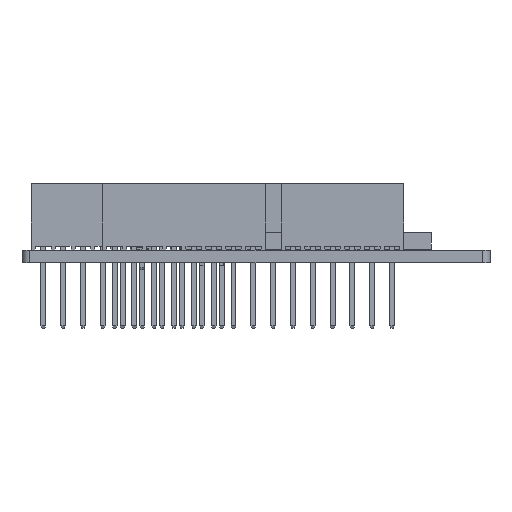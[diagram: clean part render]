
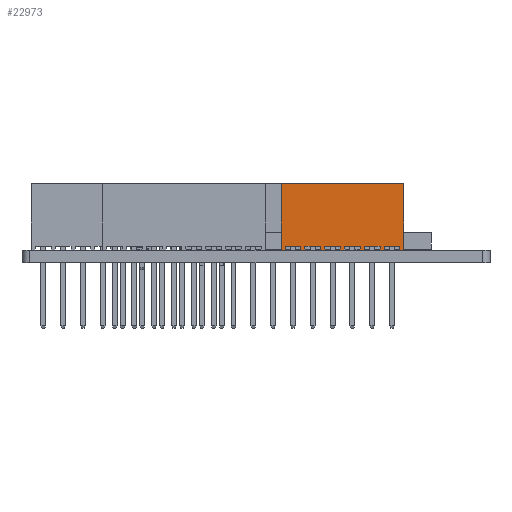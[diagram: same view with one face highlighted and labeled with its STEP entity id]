
A CAD part, front view. The second image highlights one B-rep face of the part: STEP entity #22973.
In plain terms, the highlighted planar face has unit normal (0, -1, 0) as drawn and (0, 0, -1) by its records, which use the part's own axes.
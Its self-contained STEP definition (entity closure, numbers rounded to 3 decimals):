
#22973 = ADVANCED_FACE('',(#22974),#23200,.F.);
#22974 = FACE_BOUND('',#22975,.T.);
#22975 = EDGE_LOOP('',(#22976,#22986,#22994,#23002,#23010,#23018,#23026,
    #23034,#23042,#23050,#23058,#23066,#23074,#23082,#23090,#23098,
    #23106,#23114,#23122,#23130,#23138,#23146,#23154,#23162,#23170,
    #23178,#23186,#23194));
#22976 = ORIENTED_EDGE('',*,*,#22977,.F.);
#22977 = EDGE_CURVE('',#22978,#22980,#22982,.T.);
#22978 = VERTEX_POINT('',#22979);
#22979 = CARTESIAN_POINT('',(7.366,0.508,-1.207));
#22980 = VERTEX_POINT('',#22981);
#22981 = CARTESIAN_POINT('',(7.366,0.,-1.207));
#22982 = LINE('',#22983,#22984);
#22983 = CARTESIAN_POINT('',(7.366,8.509,-1.207));
#22984 = VECTOR('',#22985,1.);
#22985 = DIRECTION('',(0.,-1.,-0.));
#22986 = ORIENTED_EDGE('',*,*,#22987,.F.);
#22987 = EDGE_CURVE('',#22988,#22978,#22990,.T.);
#22988 = VERTEX_POINT('',#22989);
#22989 = CARTESIAN_POINT('',(5.334,0.508,-1.207));
#22990 = LINE('',#22991,#22992);
#22991 = CARTESIAN_POINT('',(7.874,0.508,-1.207));
#22992 = VECTOR('',#22993,1.);
#22993 = DIRECTION('',(1.,0.,0.));
#22994 = ORIENTED_EDGE('',*,*,#22995,.F.);
#22995 = EDGE_CURVE('',#22996,#22988,#22998,.T.);
#22996 = VERTEX_POINT('',#22997);
#22997 = CARTESIAN_POINT('',(5.334,0.,-1.207));
#22998 = LINE('',#22999,#23000);
#22999 = CARTESIAN_POINT('',(5.334,8.509,-1.207));
#23000 = VECTOR('',#23001,1.);
#23001 = DIRECTION('',(0.,1.,0.));
#23002 = ORIENTED_EDGE('',*,*,#23003,.T.);
#23003 = EDGE_CURVE('',#22996,#23004,#23006,.T.);
#23004 = VERTEX_POINT('',#23005);
#23005 = CARTESIAN_POINT('',(4.826,0.,-1.207));
#23006 = LINE('',#23007,#23008);
#23007 = CARTESIAN_POINT('',(7.874,0.,-1.207));
#23008 = VECTOR('',#23009,1.);
#23009 = DIRECTION('',(-1.,0.,0.));
#23010 = ORIENTED_EDGE('',*,*,#23011,.F.);
#23011 = EDGE_CURVE('',#23012,#23004,#23014,.T.);
#23012 = VERTEX_POINT('',#23013);
#23013 = CARTESIAN_POINT('',(4.826,0.508,-1.207));
#23014 = LINE('',#23015,#23016);
#23015 = CARTESIAN_POINT('',(4.826,8.509,-1.207));
#23016 = VECTOR('',#23017,1.);
#23017 = DIRECTION('',(0.,-1.,0.));
#23018 = ORIENTED_EDGE('',*,*,#23019,.F.);
#23019 = EDGE_CURVE('',#23020,#23012,#23022,.T.);
#23020 = VERTEX_POINT('',#23021);
#23021 = CARTESIAN_POINT('',(2.794,0.508,-1.207));
#23022 = LINE('',#23023,#23024);
#23023 = CARTESIAN_POINT('',(7.874,0.508,-1.207));
#23024 = VECTOR('',#23025,1.);
#23025 = DIRECTION('',(1.,0.,0.));
#23026 = ORIENTED_EDGE('',*,*,#23027,.F.);
#23027 = EDGE_CURVE('',#23028,#23020,#23030,.T.);
#23028 = VERTEX_POINT('',#23029);
#23029 = CARTESIAN_POINT('',(2.794,0.,-1.207));
#23030 = LINE('',#23031,#23032);
#23031 = CARTESIAN_POINT('',(2.794,8.509,-1.207));
#23032 = VECTOR('',#23033,1.);
#23033 = DIRECTION('',(0.,1.,0.));
#23034 = ORIENTED_EDGE('',*,*,#23035,.T.);
#23035 = EDGE_CURVE('',#23028,#23036,#23038,.T.);
#23036 = VERTEX_POINT('',#23037);
#23037 = CARTESIAN_POINT('',(2.286,0.,-1.207));
#23038 = LINE('',#23039,#23040);
#23039 = CARTESIAN_POINT('',(7.874,0.,-1.207));
#23040 = VECTOR('',#23041,1.);
#23041 = DIRECTION('',(-1.,0.,0.));
#23042 = ORIENTED_EDGE('',*,*,#23043,.F.);
#23043 = EDGE_CURVE('',#23044,#23036,#23046,.T.);
#23044 = VERTEX_POINT('',#23045);
#23045 = CARTESIAN_POINT('',(2.286,0.508,-1.207));
#23046 = LINE('',#23047,#23048);
#23047 = CARTESIAN_POINT('',(2.286,8.509,-1.207));
#23048 = VECTOR('',#23049,1.);
#23049 = DIRECTION('',(0.,-1.,0.));
#23050 = ORIENTED_EDGE('',*,*,#23051,.F.);
#23051 = EDGE_CURVE('',#23052,#23044,#23054,.T.);
#23052 = VERTEX_POINT('',#23053);
#23053 = CARTESIAN_POINT('',(0.254,0.508,-1.207));
#23054 = LINE('',#23055,#23056);
#23055 = CARTESIAN_POINT('',(7.874,0.508,-1.207));
#23056 = VECTOR('',#23057,1.);
#23057 = DIRECTION('',(1.,0.,0.));
#23058 = ORIENTED_EDGE('',*,*,#23059,.F.);
#23059 = EDGE_CURVE('',#23060,#23052,#23062,.T.);
#23060 = VERTEX_POINT('',#23061);
#23061 = CARTESIAN_POINT('',(0.254,0.,-1.207));
#23062 = LINE('',#23063,#23064);
#23063 = CARTESIAN_POINT('',(0.254,8.509,-1.207));
#23064 = VECTOR('',#23065,1.);
#23065 = DIRECTION('',(0.,1.,0.));
#23066 = ORIENTED_EDGE('',*,*,#23067,.T.);
#23067 = EDGE_CURVE('',#23060,#23068,#23070,.T.);
#23068 = VERTEX_POINT('',#23069);
#23069 = CARTESIAN_POINT('',(-0.254,0.,-1.207));
#23070 = LINE('',#23071,#23072);
#23071 = CARTESIAN_POINT('',(7.874,0.,-1.207));
#23072 = VECTOR('',#23073,1.);
#23073 = DIRECTION('',(-1.,0.,0.));
#23074 = ORIENTED_EDGE('',*,*,#23075,.F.);
#23075 = EDGE_CURVE('',#23076,#23068,#23078,.T.);
#23076 = VERTEX_POINT('',#23077);
#23077 = CARTESIAN_POINT('',(-0.254,0.508,-1.207));
#23078 = LINE('',#23079,#23080);
#23079 = CARTESIAN_POINT('',(-0.254,8.509,-1.207));
#23080 = VECTOR('',#23081,1.);
#23081 = DIRECTION('',(0.,-1.,0.));
#23082 = ORIENTED_EDGE('',*,*,#23083,.F.);
#23083 = EDGE_CURVE('',#23084,#23076,#23086,.T.);
#23084 = VERTEX_POINT('',#23085);
#23085 = CARTESIAN_POINT('',(-2.286,0.508,-1.207));
#23086 = LINE('',#23087,#23088);
#23087 = CARTESIAN_POINT('',(7.874,0.508,-1.207));
#23088 = VECTOR('',#23089,1.);
#23089 = DIRECTION('',(1.,0.,0.));
#23090 = ORIENTED_EDGE('',*,*,#23091,.F.);
#23091 = EDGE_CURVE('',#23092,#23084,#23094,.T.);
#23092 = VERTEX_POINT('',#23093);
#23093 = CARTESIAN_POINT('',(-2.286,0.,-1.207));
#23094 = LINE('',#23095,#23096);
#23095 = CARTESIAN_POINT('',(-2.286,8.509,-1.207));
#23096 = VECTOR('',#23097,1.);
#23097 = DIRECTION('',(0.,1.,0.));
#23098 = ORIENTED_EDGE('',*,*,#23099,.T.);
#23099 = EDGE_CURVE('',#23092,#23100,#23102,.T.);
#23100 = VERTEX_POINT('',#23101);
#23101 = CARTESIAN_POINT('',(-2.794,0.,-1.207));
#23102 = LINE('',#23103,#23104);
#23103 = CARTESIAN_POINT('',(7.874,0.,-1.207));
#23104 = VECTOR('',#23105,1.);
#23105 = DIRECTION('',(-1.,0.,0.));
#23106 = ORIENTED_EDGE('',*,*,#23107,.F.);
#23107 = EDGE_CURVE('',#23108,#23100,#23110,.T.);
#23108 = VERTEX_POINT('',#23109);
#23109 = CARTESIAN_POINT('',(-2.794,0.508,-1.207));
#23110 = LINE('',#23111,#23112);
#23111 = CARTESIAN_POINT('',(-2.794,8.509,-1.207));
#23112 = VECTOR('',#23113,1.);
#23113 = DIRECTION('',(0.,-1.,0.));
#23114 = ORIENTED_EDGE('',*,*,#23115,.F.);
#23115 = EDGE_CURVE('',#23116,#23108,#23118,.T.);
#23116 = VERTEX_POINT('',#23117);
#23117 = CARTESIAN_POINT('',(-4.826,0.508,-1.207));
#23118 = LINE('',#23119,#23120);
#23119 = CARTESIAN_POINT('',(7.874,0.508,-1.207));
#23120 = VECTOR('',#23121,1.);
#23121 = DIRECTION('',(1.,0.,0.));
#23122 = ORIENTED_EDGE('',*,*,#23123,.F.);
#23123 = EDGE_CURVE('',#23124,#23116,#23126,.T.);
#23124 = VERTEX_POINT('',#23125);
#23125 = CARTESIAN_POINT('',(-4.826,0.,-1.207));
#23126 = LINE('',#23127,#23128);
#23127 = CARTESIAN_POINT('',(-4.826,8.509,-1.207));
#23128 = VECTOR('',#23129,1.);
#23129 = DIRECTION('',(0.,1.,0.));
#23130 = ORIENTED_EDGE('',*,*,#23131,.T.);
#23131 = EDGE_CURVE('',#23124,#23132,#23134,.T.);
#23132 = VERTEX_POINT('',#23133);
#23133 = CARTESIAN_POINT('',(-5.334,0.,-1.207));
#23134 = LINE('',#23135,#23136);
#23135 = CARTESIAN_POINT('',(7.874,0.,-1.207));
#23136 = VECTOR('',#23137,1.);
#23137 = DIRECTION('',(-1.,0.,0.));
#23138 = ORIENTED_EDGE('',*,*,#23139,.F.);
#23139 = EDGE_CURVE('',#23140,#23132,#23142,.T.);
#23140 = VERTEX_POINT('',#23141);
#23141 = CARTESIAN_POINT('',(-5.334,0.508,-1.207));
#23142 = LINE('',#23143,#23144);
#23143 = CARTESIAN_POINT('',(-5.334,8.509,-1.207));
#23144 = VECTOR('',#23145,1.);
#23145 = DIRECTION('',(0.,-1.,0.));
#23146 = ORIENTED_EDGE('',*,*,#23147,.F.);
#23147 = EDGE_CURVE('',#23148,#23140,#23150,.T.);
#23148 = VERTEX_POINT('',#23149);
#23149 = CARTESIAN_POINT('',(-7.366,0.508,-1.207));
#23150 = LINE('',#23151,#23152);
#23151 = CARTESIAN_POINT('',(7.874,0.508,-1.207));
#23152 = VECTOR('',#23153,1.);
#23153 = DIRECTION('',(1.,0.,0.));
#23154 = ORIENTED_EDGE('',*,*,#23155,.F.);
#23155 = EDGE_CURVE('',#23156,#23148,#23158,.T.);
#23156 = VERTEX_POINT('',#23157);
#23157 = CARTESIAN_POINT('',(-7.366,0.,-1.207));
#23158 = LINE('',#23159,#23160);
#23159 = CARTESIAN_POINT('',(-7.366,8.509,-1.207));
#23160 = VECTOR('',#23161,1.);
#23161 = DIRECTION('',(0.,1.,0.));
#23162 = ORIENTED_EDGE('',*,*,#23163,.T.);
#23163 = EDGE_CURVE('',#23156,#23164,#23166,.T.);
#23164 = VERTEX_POINT('',#23165);
#23165 = CARTESIAN_POINT('',(-7.874,0.,-1.207));
#23166 = LINE('',#23167,#23168);
#23167 = CARTESIAN_POINT('',(7.874,0.,-1.207));
#23168 = VECTOR('',#23169,1.);
#23169 = DIRECTION('',(-1.,0.,0.));
#23170 = ORIENTED_EDGE('',*,*,#23171,.F.);
#23171 = EDGE_CURVE('',#23172,#23164,#23174,.T.);
#23172 = VERTEX_POINT('',#23173);
#23173 = CARTESIAN_POINT('',(-7.874,8.509,-1.207));
#23174 = LINE('',#23175,#23176);
#23175 = CARTESIAN_POINT('',(-7.874,8.509,-1.207));
#23176 = VECTOR('',#23177,1.);
#23177 = DIRECTION('',(-0.,-1.,-0.));
#23178 = ORIENTED_EDGE('',*,*,#23179,.F.);
#23179 = EDGE_CURVE('',#23180,#23172,#23182,.T.);
#23180 = VERTEX_POINT('',#23181);
#23181 = CARTESIAN_POINT('',(7.874,8.509,-1.207));
#23182 = LINE('',#23183,#23184);
#23183 = CARTESIAN_POINT('',(7.874,8.509,-1.207));
#23184 = VECTOR('',#23185,1.);
#23185 = DIRECTION('',(-1.,0.,0.));
#23186 = ORIENTED_EDGE('',*,*,#23187,.T.);
#23187 = EDGE_CURVE('',#23180,#23188,#23190,.T.);
#23188 = VERTEX_POINT('',#23189);
#23189 = CARTESIAN_POINT('',(7.874,0.,-1.207));
#23190 = LINE('',#23191,#23192);
#23191 = CARTESIAN_POINT('',(7.874,8.509,-1.207));
#23192 = VECTOR('',#23193,1.);
#23193 = DIRECTION('',(-0.,-1.,-0.));
#23194 = ORIENTED_EDGE('',*,*,#23195,.T.);
#23195 = EDGE_CURVE('',#23188,#22980,#23196,.T.);
#23196 = LINE('',#23197,#23198);
#23197 = CARTESIAN_POINT('',(7.874,0.,-1.207));
#23198 = VECTOR('',#23199,1.);
#23199 = DIRECTION('',(-1.,0.,0.));
#23200 = PLANE('',#23201);
#23201 = AXIS2_PLACEMENT_3D('',#23202,#23203,#23204);
#23202 = CARTESIAN_POINT('',(7.874,8.509,-1.207));
#23203 = DIRECTION('',(0.,-0.,1.));
#23204 = DIRECTION('',(1.,0.,0.));
